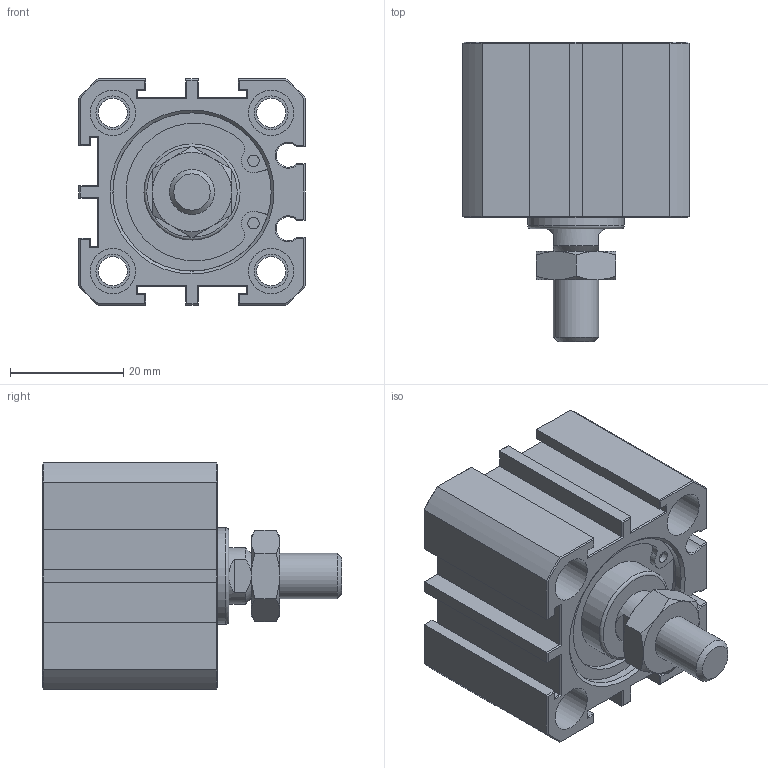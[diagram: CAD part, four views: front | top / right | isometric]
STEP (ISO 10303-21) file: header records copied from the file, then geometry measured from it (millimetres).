
FILE_DESCRIPTION(/* description */ (''),/* implementation_level */ '2;1');
FILE_NAME(/* name */ 'AJC-SD25X10W',/* time_stamp */ '2019-06-18T16:00:41+08:00',/* author */ ('JEFF HUANG'),/* organization */ ('TAIWAN AMAC CLAMP INDUSTRIAL CO., LTD.'),/* preprocessor_version */ 'ST-DEVELOPER v16.7',/* originating_system */ 'DEX',/* authorisation */ $);
FILE_SCHEMA (('AUTOMOTIVE_DESIGN { 1 0 10303 214 3 1 1 }','AUTOMOTIVE_DESIGN {1 0 10303 214 3 1 1}'));
Length unit declared in the file: millimetre
Products named in the file (1): AJC-SD25X10W
Bounding box: 40 x 53 x 40 mm (x, y, z)
Volume: 38493.3 mm3; surface area: 14183.9 mm2
Topology: 1 solids, 1 shells, 269 faces, 588 edges, 350 vertices
Faces by surface type: plane 187, cylinder 51, cone 29, torus 2
Full cylindrical faces by diameter (mm): 2.004 x4, 5 x2, 5.1 x4, 6 x8, 8 x9, 17 x2, 28 x2
Entity records: 8923 total; most frequent: CARTESIAN_POINT 1318, DIRECTION 1174, ORIENTED_EDGE 1094, EDGE_CURVE 547, AXIS2_PLACEMENT_3D 409, LINE 356, VECTOR 356, VERTEX_POINT 345
